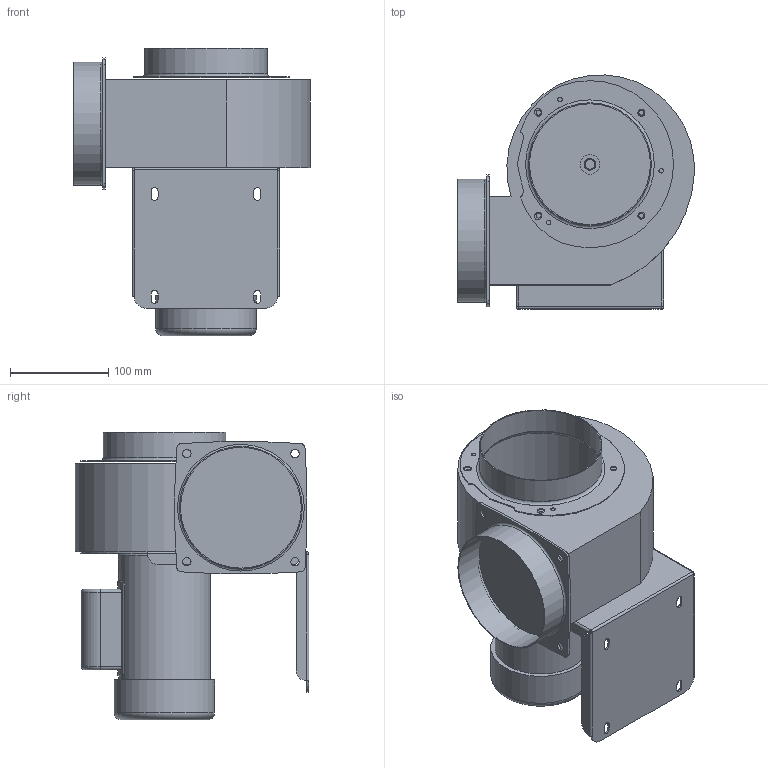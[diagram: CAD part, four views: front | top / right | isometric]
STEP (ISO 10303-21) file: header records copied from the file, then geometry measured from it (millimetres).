
FILE_DESCRIPTION(/* description */ ('Unknown'),/* implementation_level */ '2;1');
FILE_NAME(/* name */ 'CY125A2P-EG 型錄',/* time_stamp */ '2026-03-10T17:06:02+08:00',/* author */ ('Unknown'),/* organization */ ('Unknown'),/* preprocessor_version */ 'ST-DEVELOPER v20',/* originating_system */ 'Solid Edge',/* authorisation */ 'Unknown');
FILE_SCHEMA (('AUTOMOTIVE_DESIGN {1 0 10303 214 3 1 1}'));
Length unit declared in the file: millimetre
Products named in the file (5): CY125A2P-EG 型; CY125-01 & 05; CY125-07-DC; JM125A2P1a-EG; CY127-04
Assembly tree (4 placements, depth 2):
  CY125A2P-EG 型
    CY125-01 & 05
    CY125-07-DC
    JM125A2P1a-EG
    CY127-04
Bounding box: 241 x 237.85 x 292.4 mm (x, y, z)
Volume: 3431883.3 mm3; surface area: 424246 mm2
Topology: 4 solids, 4 shells, 166 faces, 399 edges, 258 vertices
Faces by surface type: cylinder 83, plane 73, torus 10
Full cylindrical faces by diameter (mm): 4.5 x3, 5.1 x8, 6.5 x4, 7 x2, 8.5 x4, 11 x1, 12 x1, 20 x1, 93.5 x1, 102 x1, 123 x2, 125 x2, 135 x1
Entity records: 4871 total; most frequent: DIRECTION 862, CARTESIAN_POINT 815, ORIENTED_EDGE 716, EDGE_CURVE 358, AXIS2_PLACEMENT_3D 341, EDGE_LOOP 264, FACE_BOUND 264, VERTEX_POINT 254
